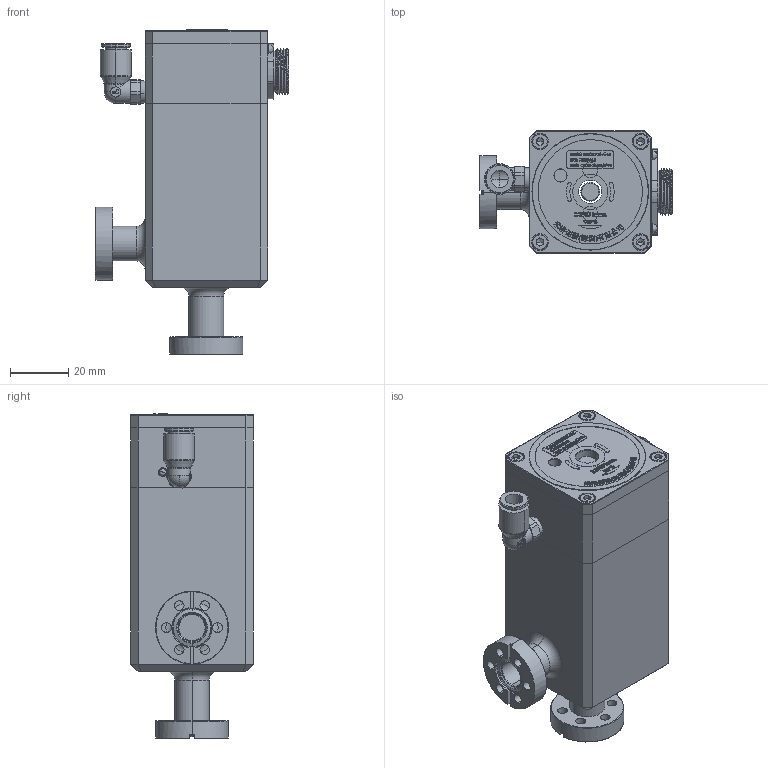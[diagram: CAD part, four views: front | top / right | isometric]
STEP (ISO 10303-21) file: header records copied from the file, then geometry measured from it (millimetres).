
FILE_DESCRIPTION (( 'STEP AP203' ), '1' );
FILE_NAME ('CF16褒概.STEP', '2024-03-01T08:03:29', ( '' ), ( '' ), 'SwSTEP 2.0', 'SolidWorks 2023', '' );
FILE_SCHEMA (( 'CONFIG_CONTROL_DESIGN' ));
Length unit declared in the file: millimetre
Products named in the file (1): CF16角阀
Bounding box: 66.2 x 42 x 111.4 mm (x, y, z)
Surface area: 28217.4 mm2 (no closed solid volume)
Topology: 0 solids, 33 shells, 1112 faces, 4800 edges, 3487 vertices
Faces by surface type: plane 529, bspline 313, cylinder 166, torus 58, cone 44, sphere 2
Entity records: 75614 total; most frequent: CARTESIAN_POINT 41028, ORIENTED_EDGE 6993, DIRECTION 5468, EDGE_CURVE 4779, VERTEX_POINT 3487, LINE 2724, VECTOR 2724, B_SPLINE_CURVE_WITH_KNOTS 1473
